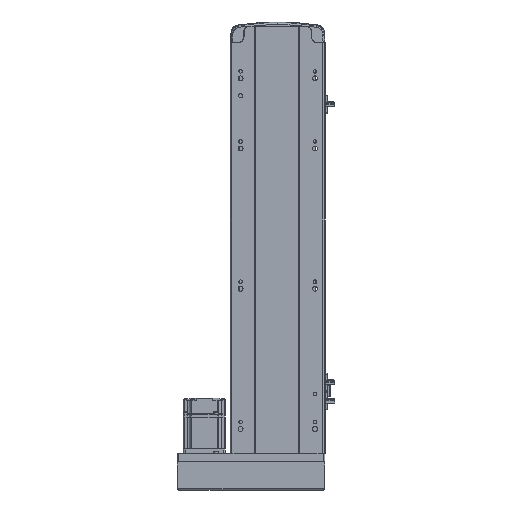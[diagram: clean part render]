
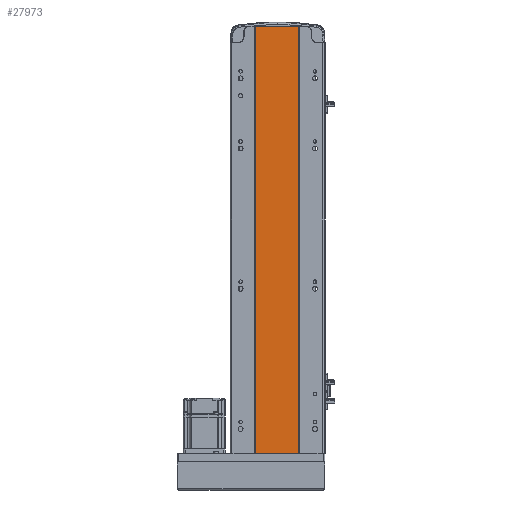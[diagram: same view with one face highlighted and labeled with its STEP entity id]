
A CAD part, front view. The second image highlights one B-rep face of the part: STEP entity #27973.
In plain terms, the highlighted planar face has unit normal (0, -1, 0).
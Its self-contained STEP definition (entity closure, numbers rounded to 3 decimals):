
#5294 = ORIENTED_EDGE ( 'NONE', *, *, #37639, .F. ) ;
#5393 = EDGE_CURVE ( 'NONE', #11506, #40987, #49594, .T. ) ;
#8653 = ORIENTED_EDGE ( 'NONE', *, *, #5393, .F. ) ;
#8677 = DIRECTION ( 'NONE',  ( 0., 0., -1. ) ) ;
#10522 = AXIS2_PLACEMENT_3D ( 'NONE', #26296, #25527, #21923 ) ;
#11255 = VECTOR ( 'NONE', #8677, 1000. ) ;
#11506 = VERTEX_POINT ( 'NONE', #38670 ) ;
#11527 = VECTOR ( 'NONE', #14943, 1000. ) ;
#13476 = FACE_OUTER_BOUND ( 'NONE', #50877, .T. ) ;
#14359 = VECTOR ( 'NONE', #53992, 1000. ) ;
#14367 = CARTESIAN_POINT ( 'NONE',  ( -32., 1., 609. ) ) ;
#14373 = VERTEX_POINT ( 'NONE', #41657 ) ;
#14943 = DIRECTION ( 'NONE',  ( 0., 0., -1. ) ) ;
#15012 = LINE ( 'NONE', #14367, #14359 ) ;
#18204 = VECTOR ( 'NONE', #49478, 1000. ) ;
#21923 = DIRECTION ( 'NONE',  ( -1., 0., 0. ) ) ;
#25527 = DIRECTION ( 'NONE',  ( 0., 1., 0. ) ) ;
#25729 = PLANE ( 'NONE',  #10522 ) ;
#26296 = CARTESIAN_POINT ( 'NONE',  ( -32., 1., 609. ) ) ;
#27483 = CARTESIAN_POINT ( 'NONE',  ( -32., 1., 609. ) ) ;
#27973 = ADVANCED_FACE ( 'NONE', ( #13476 ), #25729, .F. ) ;
#33053 = CARTESIAN_POINT ( 'NONE',  ( -32., 1., 609. ) ) ;
#34726 = CARTESIAN_POINT ( 'NONE',  ( 30., 1., 609. ) ) ;
#34996 = VERTEX_POINT ( 'NONE', #27483 ) ;
#35033 = ORIENTED_EDGE ( 'NONE', *, *, #53735, .T. ) ;
#37639 = EDGE_CURVE ( 'NONE', #34996, #11506, #15012, .T. ) ;
#38670 = CARTESIAN_POINT ( 'NONE',  ( 30., 1., 609. ) ) ;
#40803 = CARTESIAN_POINT ( 'NONE',  ( 30., 1., 0. ) ) ;
#40987 = VERTEX_POINT ( 'NONE', #40803 ) ;
#41657 = CARTESIAN_POINT ( 'NONE',  ( -32., 1., 0. ) ) ;
#44374 = EDGE_CURVE ( 'NONE', #14373, #40987, #47638, .T. ) ;
#47638 = LINE ( 'NONE', #53867, #18204 ) ;
#49478 = DIRECTION ( 'NONE',  ( 1., 0., 0. ) ) ;
#49594 = LINE ( 'NONE', #34726, #11255 ) ;
#49600 = ORIENTED_EDGE ( 'NONE', *, *, #44374, .T. ) ;
#50877 = EDGE_LOOP ( 'NONE', ( #49600, #8653, #5294, #35033 ) ) ;
#51233 = LINE ( 'NONE', #33053, #11527 ) ;
#53735 = EDGE_CURVE ( 'NONE', #34996, #14373, #51233, .T. ) ;
#53867 = CARTESIAN_POINT ( 'NONE',  ( -32., 1., 0. ) ) ;
#53992 = DIRECTION ( 'NONE',  ( 1., 0., 0. ) ) ;
